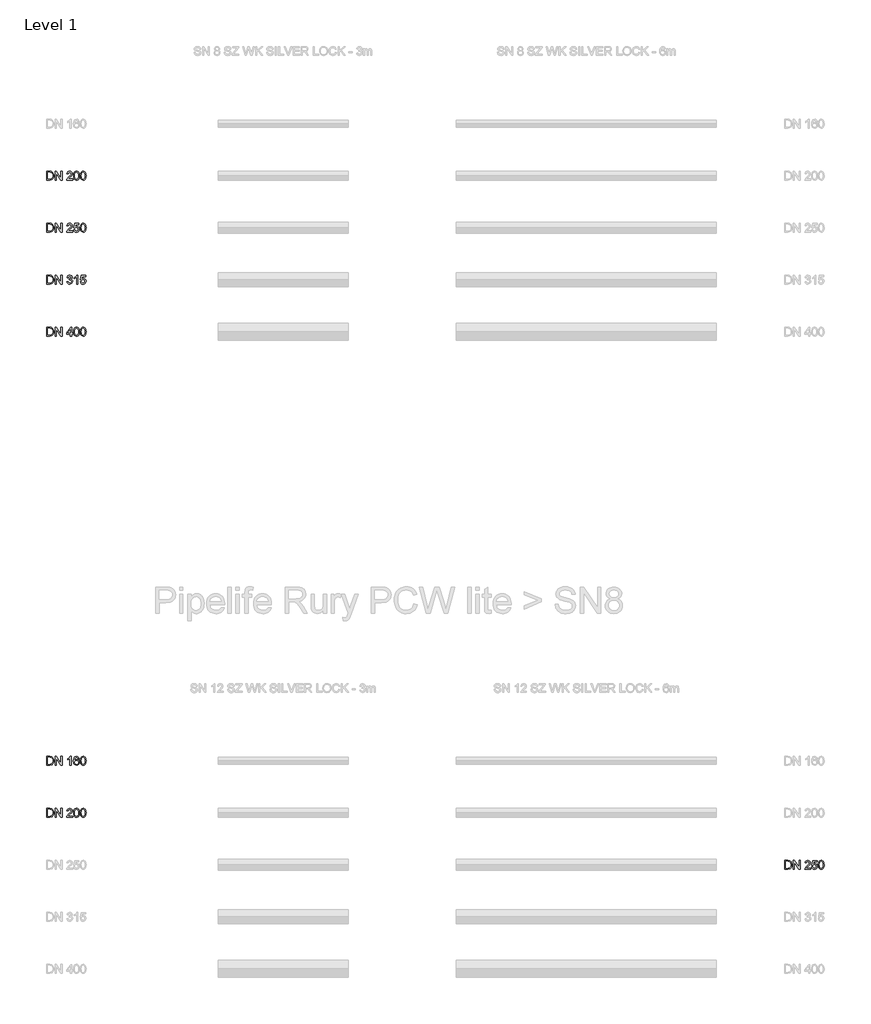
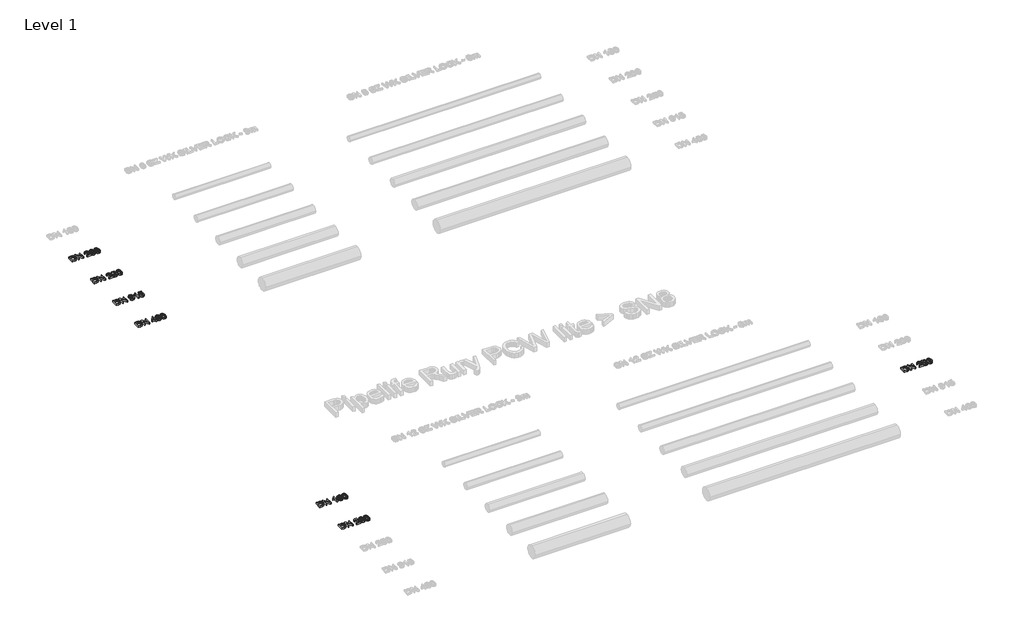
# One storey, part 2 of 8: 7 proxies.
"""IFC4 building model written with IfcOpenShell, lengths in millimetres."""

from ifc_helpers import new_model, si_unit, origin, origin_with_axes, place, context, project, spatial, polyline, outline, extrude, element, save

model = new_model("IFC4")

# Units and contexts
model_context = context("Model", 3, world=origin())
ifc_project = project(units=[si_unit("LENGTHUNIT", "METRE", prefix="MILLI")], contexts=[model_context])

# Site, building, storey
site = spatial("IfcSite", under=ifc_project)
building = spatial("IfcBuilding", under=site)
storey = spatial("IfcBuildingStorey", under=building, Name="Level 1", Elevation=0.0)

# Proxies
placement = place(None, origin())
element("IfcBuildingElementProxy", 1, Name="200mm Arial", ObjectType="200mm Arial", at=placement, inside=storey, context=model_context, shape_type="SweptSolid", body=[
    extrude(outline(polyline([(-19491.3116028, -713.949573), (-19491.3116028, -513.0369527), (-19422.0026349, -513.0369527), (-19386.1464031, -515.9309577), (-19370.1312736, -521.5105013), (-19356.6177416, -530.302881), (-19342.724065, -545.606772), (-19332.8280393, -564.6385338), (-19326.9051392, -587.0302846), (-19324.9308391, -612.4141423), (-19330.2773908, -652.9547382), (-19344.0116519, -682.2136195), (-19362.3567008, -700.436041), (-19386.3671323, -710.5160077), (-19418.6671715, -713.949573), (-19491.3116028, -713.949573)]), holes=[polyline([(-19466.1975253, -688.8354954), (-19421.7573803, -688.8354954), (-19389.4328156, -685.2057264), (-19370.7934612, -674.9540815), (-19362.0685265, -664.0831685), (-19355.5140957, -650.0116822), (-19351.4122114, -632.6783089), (-19350.0449167, -612.0217348), (-19352.7243239, -584.6513144), (-19360.7625455, -564.4423301), (-19372.6390025, -550.5609162), (-19386.8331162, -542.1732067), (-19422.4440933, -538.1510302), (-19466.1975253, -538.1510302), (-19466.1975253, -688.8354954)])]), origin_with_axes(), (0.0, 0.0, 1.0), 50.0),
    extrude(outline(polyline([(-19290.3989825, -713.949573), (-19290.3989825, -513.0369527), (-19263.5190714, -513.0369527), (-19158.5500754, -672.2072292), (-19158.5500754, -513.0369527), (-19133.4359979, -513.0369527), (-19133.4359979, -713.949573), (-19160.315909, -713.949573), (-19265.284905, -554.7302454), (-19265.284905, -713.949573), (-19290.3989825, -713.949573)])), origin_with_axes(), (0.0, 0.0, 1.0), 50.0),
    extrude(outline(polyline([(-18891.7130016, -688.8354954), (-18891.7130016, -713.949573), (-19023.5619087, -713.949573), (-19020.8641074, -696.6345937), (-19005.6092673, -669.9754118), (-18974.1676195, -640.8636832), (-18930.806595, -599.0232377), (-18922.6764029, -584.6022634), (-18919.9663388, -570.5736967), (-18922.5231187, -557.9982638), (-18930.1934583, -547.5442838), (-18941.9840762, -540.4993436), (-18956.9016912, -538.1510302), (-18972.5673328, -540.4441613), (-18984.7380955, -547.3235546), (-18992.5923761, -558.2496499), (-18995.3085714, -572.6828868), (-19020.422649, -569.5436271), (-19014.334202, -545.2511527), (-19001.1701579, -527.5069778), (-18981.6172299, -516.6544589), (-18956.3621309, -513.0369527), (-18930.9230909, -517.0591291), (-18911.4069511, -529.1256586), (-18898.9909337, -547.1518763), (-18894.8522613, -569.0531178), (-18899.3158962, -592.8673456), (-18914.1538033, -617.4909138), (-18950.1326624, -651.9001431), (-18979.0236618, -676.0577275), (-18990.3544272, -688.8354954), (-18891.7130016, -688.8354954)])), origin_with_axes(), (0.0, 0.0, 1.0), 50.0),
    extrude(outline(polyline([(-18866.5989241, -615.1119436), (-18864.7533827, -582.9529258), (-18859.2167587, -557.3054194), (-18850.0442343, -537.7770168), (-18837.2909918, -523.9753106), (-18820.8650607, -515.7715422), (-18800.6744705, -513.0369527), (-18785.1989013, -514.6556334), (-18771.3420128, -519.5116758), (-18759.7537299, -527.4150073), (-18751.0839776, -538.1755557), (-18739.3117537, -567.9004209), (-18734.750017, -615.1119436), (-18736.5771642, -647.0870203), (-18742.058606, -672.6732131), (-18751.1759481, -692.2200098), (-18763.9107965, -706.0768983), (-18780.3735158, -714.335849), (-18800.6744705, -717.0888326), (-18826.7695667, -712.3063667), (-18846.5861435, -697.9589689), (-18855.341735, -682.8298218), (-18861.5957289, -663.9789353), (-18866.5989241, -615.1119436)]), holes=[polyline([(-18841.4848465, -615.0628927), (-18838.5417906, -654.5672876), (-18829.7126227, -677.4311536), (-18816.5669727, -688.3388547), (-18800.6744705, -691.9747551), (-18784.7819683, -688.326592), (-18771.6363184, -677.3821026), (-18762.8071505, -654.5059739), (-18759.8640945, -615.0628927), (-18762.7090486, -576.4475459), (-18771.2439109, -553.4058703), (-18784.3650354, -541.9647402), (-18800.9687761, -538.1510302), (-18816.6896001, -541.5110191), (-18829.3202152, -551.5909857), (-18838.4436887, -576.0674012), (-18841.4848465, -615.0628927)])]), origin_with_axes(), (0.0, 0.0, 1.0), 50.0),
    extrude(outline(polyline([(-18712.7751992, -615.1119436), (-18710.9296578, -582.9529258), (-18705.3930338, -557.3054194), (-18696.2205094, -537.7770168), (-18683.4672669, -523.9753106), (-18667.0413358, -515.7715422), (-18646.8507456, -513.0369527), (-18631.3751764, -514.6556334), (-18617.5182879, -519.5116758), (-18605.930005, -527.4150073), (-18597.2602527, -538.1755557), (-18585.4880288, -567.9004209), (-18580.9262921, -615.1119436), (-18582.7534393, -647.0870203), (-18588.2348811, -672.6732131), (-18597.3522232, -692.2200098), (-18610.0870716, -706.0768983), (-18626.5497909, -714.335849), (-18646.8507456, -717.0888326), (-18672.9458418, -712.3063667), (-18692.7624186, -697.9589689), (-18701.5180101, -682.8298218), (-18707.772004, -663.9789353), (-18712.7751992, -615.1119436)]), holes=[polyline([(-18687.6611216, -615.0628927), (-18684.7180657, -654.5672876), (-18675.8888978, -677.4311536), (-18662.7432478, -688.3388547), (-18646.8507456, -691.9747551), (-18630.9582434, -688.326592), (-18617.8125935, -677.3821026), (-18608.9834256, -654.5059739), (-18606.0403696, -615.0628927), (-18608.8853237, -576.4475459), (-18617.420186, -553.4058703), (-18630.5413105, -541.9647402), (-18647.1450512, -538.1510302), (-18662.8658751, -541.5110191), (-18675.4964903, -551.5909857), (-18684.6199638, -576.0674012), (-18687.6611216, -615.0628927)])]), origin_with_axes(), (0.0, 0.0, 1.0), 50.0),
])
element("IfcBuildingElementProxy", 2, Name="200mm Arial", ObjectType="200mm Arial", at=placement, inside=storey, context=model_context, shape_type="SweptSolid", body=[
    extrude(outline(polyline([(-19491.3116028, -1913.949573), (-19491.3116028, -1713.0369527), (-19422.0026349, -1713.0369527), (-19386.1464031, -1715.9309577), (-19370.1312736, -1721.5105013), (-19356.6177416, -1730.302881), (-19342.724065, -1745.606772), (-19332.8280393, -1764.6385338), (-19326.9051392, -1787.0302846), (-19324.9308391, -1812.4141423), (-19330.2773908, -1852.9547382), (-19344.0116519, -1882.2136195), (-19362.3567008, -1900.436041), (-19386.3671323, -1910.5160077), (-19418.6671715, -1913.949573), (-19491.3116028, -1913.949573)]), holes=[polyline([(-19466.1975253, -1888.8354954), (-19421.7573803, -1888.8354954), (-19389.4328156, -1885.2057264), (-19370.7934612, -1874.9540815), (-19362.0685265, -1864.0831685), (-19355.5140957, -1850.0116822), (-19351.4122114, -1832.6783089), (-19350.0449167, -1812.0217348), (-19352.7243239, -1784.6513144), (-19360.7625455, -1764.4423301), (-19372.6390025, -1750.5609162), (-19386.8331162, -1742.1732067), (-19422.4440933, -1738.1510302), (-19466.1975253, -1738.1510302), (-19466.1975253, -1888.8354954)])]), origin_with_axes(), (0.0, 0.0, 1.0), 50.0),
    extrude(outline(polyline([(-19290.3989825, -1913.949573), (-19290.3989825, -1713.0369527), (-19263.5190714, -1713.0369527), (-19158.5500754, -1872.2072292), (-19158.5500754, -1713.0369527), (-19133.4359979, -1713.0369527), (-19133.4359979, -1913.949573), (-19160.315909, -1913.949573), (-19265.284905, -1754.7302454), (-19265.284905, -1913.949573), (-19290.3989825, -1913.949573)])), origin_with_axes(), (0.0, 0.0, 1.0), 50.0),
    extrude(outline(polyline([(-18891.7130016, -1888.8354954), (-18891.7130016, -1913.949573), (-19023.5619087, -1913.949573), (-19020.8641074, -1896.6345937), (-19005.6092673, -1869.9754118), (-18974.1676195, -1840.8636832), (-18930.806595, -1799.0232377), (-18922.6764029, -1784.6022634), (-18919.9663388, -1770.5736967), (-18922.5231187, -1757.9982638), (-18930.1934583, -1747.5442838), (-18941.9840762, -1740.4993436), (-18956.9016912, -1738.1510302), (-18972.5673328, -1740.4441613), (-18984.7380955, -1747.3235546), (-18992.5923761, -1758.2496499), (-18995.3085714, -1772.6828868), (-19020.422649, -1769.5436271), (-19014.334202, -1745.2511527), (-19001.1701579, -1727.5069778), (-18981.6172299, -1716.6544589), (-18956.3621309, -1713.0369527), (-18930.9230909, -1717.0591291), (-18911.4069511, -1729.1256586), (-18898.9909337, -1747.1518763), (-18894.8522613, -1769.0531178), (-18899.3158962, -1792.8673456), (-18914.1538033, -1817.4909138), (-18950.1326624, -1851.9001431), (-18979.0236618, -1876.0577275), (-18990.3544272, -1888.8354954), (-18891.7130016, -1888.8354954)])), origin_with_axes(), (0.0, 0.0, 1.0), 50.0),
    extrude(outline(polyline([(-18866.5989241, -1860.5821582), (-18841.4848465, -1857.4428985), (-18836.8740589, -1872.5199289), (-18828.8297059, -1883.3172655), (-18817.3885758, -1889.8103827), (-18802.5874569, -1891.9747551), (-18784.5857646, -1888.9642541), (-18771.0967581, -1879.9327511), (-18762.6722604, -1865.9225785), (-18759.8640945, -1847.9760685), (-18762.4944508, -1831.0780222), (-18770.3855196, -1818.1531014), (-18783.5986146, -1809.9493329), (-18802.1950494, -1807.2147434), (-18824.2434437, -1811.5802764), (-18838.3455868, -1822.9110419), (-18863.4596644, -1819.7717822), (-18841.4848465, -1716.1762123), (-18744.1677961, -1716.1762123), (-18744.1677961, -1741.2902899), (-18821.1777604, -1741.2902899), (-18831.9199147, -1796.619742), (-18813.979536, -1785.7304349), (-18795.1807661, -1782.1006659), (-18771.7160261, -1786.601089), (-18752.2366745, -1800.1023582), (-18739.1216814, -1820.6792244), (-18734.750017, -1846.4064386), (-18738.6863543, -1871.5205162), (-18750.4953664, -1893.0048247), (-18760.9309523, -1903.5415782), (-18773.1078464, -1911.0678307), (-18787.0260485, -1915.5835821), (-18802.6855588, -1917.0888326), (-18827.3520466, -1913.2199403), (-18847.0030765, -1901.6132634), (-18860.4736888, -1883.6177025), (-18866.5989241, -1860.5821582)])), origin_with_axes(), (0.0, 0.0, 1.0), 50.0),
    extrude(outline(polyline([(-18712.7751992, -1815.1119436), (-18710.9296578, -1782.9529258), (-18705.3930338, -1757.3054194), (-18696.2205094, -1737.7770168), (-18683.4672669, -1723.9753106), (-18667.0413358, -1715.7715422), (-18646.8507456, -1713.0369527), (-18631.3751764, -1714.6556334), (-18617.5182879, -1719.5116758), (-18605.930005, -1727.4150073), (-18597.2602527, -1738.1755557), (-18585.4880288, -1767.9004209), (-18580.9262921, -1815.1119436), (-18582.7534393, -1847.0870203), (-18588.2348811, -1872.6732131), (-18597.3522232, -1892.2200098), (-18610.0870716, -1906.0768983), (-18626.5497909, -1914.335849), (-18646.8507456, -1917.0888326), (-18672.9458418, -1912.3063667), (-18692.7624186, -1897.9589689), (-18701.5180101, -1882.8298218), (-18707.772004, -1863.9789353), (-18712.7751992, -1815.1119436)]), holes=[polyline([(-18687.6611216, -1815.0628927), (-18684.7180657, -1854.5672876), (-18675.8888978, -1877.4311536), (-18662.7432478, -1888.3388547), (-18646.8507456, -1891.9747551), (-18630.9582434, -1888.326592), (-18617.8125935, -1877.3821026), (-18608.9834256, -1854.5059739), (-18606.0403696, -1815.0628927), (-18608.8853237, -1776.4475459), (-18617.420186, -1753.4058703), (-18630.5413105, -1741.9647402), (-18647.1450512, -1738.1510302), (-18662.8658751, -1741.5110191), (-18675.4964903, -1751.5909857), (-18684.6199638, -1776.0674012), (-18687.6611216, -1815.0628927)])]), origin_with_axes(), (0.0, 0.0, 1.0), 50.0),
])
element("IfcBuildingElementProxy", 3, Name="200mm Arial", ObjectType="200mm Arial", at=placement, inside=storey, context=model_context, shape_type="SweptSolid", body=[
    extrude(outline(polyline([(-19491.3116028, -3113.949573), (-19491.3116028, -2913.0369527), (-19422.0026349, -2913.0369527), (-19386.1464031, -2915.9309577), (-19370.1312736, -2921.5105013), (-19356.6177416, -2930.302881), (-19342.724065, -2945.606772), (-19332.8280393, -2964.6385338), (-19326.9051392, -2987.0302846), (-19324.9308391, -3012.4141423), (-19330.2773908, -3052.9547382), (-19344.0116519, -3082.2136195), (-19362.3567008, -3100.436041), (-19386.3671323, -3110.5160077), (-19418.6671715, -3113.949573), (-19491.3116028, -3113.949573)]), holes=[polyline([(-19466.1975253, -3088.8354954), (-19421.7573803, -3088.8354954), (-19389.4328156, -3085.2057264), (-19370.7934612, -3074.9540815), (-19362.0685265, -3064.0831685), (-19355.5140957, -3050.0116822), (-19351.4122114, -3032.6783089), (-19350.0449167, -3012.0217348), (-19352.7243239, -2984.6513144), (-19360.7625455, -2964.4423301), (-19372.6390025, -2950.5609162), (-19386.8331162, -2942.1732067), (-19422.4440933, -2938.1510302), (-19466.1975253, -2938.1510302), (-19466.1975253, -3088.8354954)])]), origin_with_axes(), (0.0, 0.0, 1.0), 50.0),
    extrude(outline(polyline([(-19290.3989825, -3113.949573), (-19290.3989825, -2913.0369527), (-19263.5190714, -2913.0369527), (-19158.5500754, -3072.2072292), (-19158.5500754, -2913.0369527), (-19133.4359979, -2913.0369527), (-19133.4359979, -3113.949573), (-19160.315909, -3113.949573), (-19265.284905, -2954.7302454), (-19265.284905, -3113.949573), (-19290.3989825, -3113.949573)])), origin_with_axes(), (0.0, 0.0, 1.0), 50.0),
    extrude(outline(polyline([(-19020.422649, -3060.5821582), (-18995.3085714, -3057.4428985), (-18989.6861083, -3073.2250361), (-18981.451683, -3083.8813512), (-18970.2006253, -3089.9514041), (-18955.528265, -3091.9747551), (-18938.3113877, -3089.1911147), (-18925.0185849, -3080.8401934), (-18916.5205108, -3068.3812565), (-18913.6878195, -3053.2735692), (-18916.4959853, -3038.9323028), (-18924.920483, -3027.3011004), (-18937.6737255, -3019.5939726), (-18953.4681259, -3017.02493), (-18971.0774107, -3019.7717822), (-18968.2815075, -2994.6577047), (-18964.2593311, -2994.9520102), (-18949.2129575, -2993.1493885), (-18935.7607392, -2987.7415231), (-18926.2693837, -2978.5935242), (-18923.1055985, -2965.5705016), (-18925.3987296, -2954.7241141), (-18932.2781229, -2945.925603), (-18942.7750225, -2940.0946734), (-18955.9206725, -2938.1510302), (-18969.0908479, -2940.1130675), (-18979.8575277, -2945.9991794), (-18987.7179396, -2955.809366), (-18992.1693118, -2969.5436271), (-19017.2833893, -2966.4043674), (-19009.8889612, -2943.8532011), (-18996.7310485, -2927.0164685), (-18978.7293562, -2916.5318316), (-18956.8035893, -2913.0369527), (-18941.0153203, -2914.7598667), (-18926.5146384, -2919.9286087), (-18914.2886934, -2928.0833263), (-18905.3246354, -2938.7641669), (-18899.8247996, -2951.0698196), (-18897.991521, -2964.0989736), (-18899.7328291, -2976.2390794), (-18904.9567534, -2987.2510138), (-18913.5897176, -2996.6320047), (-18925.5581452, -3003.87928), (-18909.8373212, -3010.2313758), (-18898.1877247, -3021.0471064), (-18890.9772376, -3035.7378608), (-18888.5737419, -3053.7150276), (-18893.3807333, -3078.191443), (-18907.8017075, -3098.645682), (-18929.5680589, -3112.478045), (-18956.4111818, -3117.0888326), (-18980.6913935, -3113.1524953), (-19000.4589194, -3101.3434833), (-19014.2054433, -3083.2804773), (-19020.422649, -3060.5821582)])), origin_with_axes(), (0.0, 0.0, 1.0), 50.0),
    extrude(outline(polyline([(-18772.4211333, -3113.949573), (-18797.5352108, -3113.949573), (-18797.5352108, -2957.3789958), (-18821.3249132, -2974.3260931), (-18847.7633659, -2987.0057592), (-18847.7633659, -2963.2651077), (-18810.9506409, -2939.769711), (-18797.4800285, -2926.1948653), (-18788.6079411, -2913.0369527), (-18772.4211333, -2913.0369527), (-18772.4211333, -3113.949573)])), origin_with_axes(), (0.0, 0.0, 1.0), 50.0),
    extrude(outline(polyline([(-18712.7751992, -3060.5821582), (-18687.6611216, -3057.4428985), (-18683.0503339, -3072.5199289), (-18675.005981, -3083.3172655), (-18663.5648509, -3089.8103827), (-18648.763732, -3091.9747551), (-18630.7620397, -3088.9642541), (-18617.2730332, -3079.9327511), (-18608.8485355, -3065.9225785), (-18606.0403696, -3047.9760685), (-18608.6707259, -3031.0780222), (-18616.5617947, -3018.1531014), (-18629.7748897, -3009.9493329), (-18648.3713245, -3007.2147434), (-18670.4197188, -3011.5802764), (-18684.5218619, -3022.9110419), (-18709.6359395, -3019.7717822), (-18687.6611216, -2916.1762123), (-18590.3440712, -2916.1762123), (-18590.3440712, -2941.2902899), (-18667.3540355, -2941.2902899), (-18678.0961897, -2996.619742), (-18660.1558111, -2985.7304349), (-18641.3570412, -2982.1006659), (-18617.8923012, -2986.601089), (-18598.4129496, -3000.1023582), (-18585.2979565, -3020.6792244), (-18580.9262921, -3046.4064386), (-18584.8626294, -3071.5205162), (-18596.6716415, -3093.0048247), (-18607.1072274, -3103.5415782), (-18619.2841214, -3111.0678307), (-18633.2023236, -3115.5835821), (-18648.8618339, -3117.0888326), (-18673.5283216, -3113.2199403), (-18693.1793515, -3101.6132634), (-18706.6499639, -3083.6177025), (-18712.7751992, -3060.5821582)])), origin_with_axes(), (0.0, 0.0, 1.0), 50.0),
])
element("IfcBuildingElementProxy", 4, Name="200mm Arial", ObjectType="200mm Arial", at=placement, inside=storey, context=model_context, shape_type="SweptSolid", body=[
    extrude(outline(polyline([(-19491.3116028, -4313.949573), (-19491.3116028, -4113.0369527), (-19422.0026349, -4113.0369527), (-19386.1464031, -4115.9309577), (-19370.1312736, -4121.5105013), (-19356.6177416, -4130.302881), (-19342.724065, -4145.606772), (-19332.8280393, -4164.6385338), (-19326.9051392, -4187.0302846), (-19324.9308391, -4212.4141423), (-19330.2773908, -4252.9547382), (-19344.0116519, -4282.2136195), (-19362.3567008, -4300.436041), (-19386.3671323, -4310.5160077), (-19418.6671715, -4313.949573), (-19491.3116028, -4313.949573)]), holes=[polyline([(-19466.1975253, -4288.8354954), (-19421.7573803, -4288.8354954), (-19389.4328156, -4285.2057264), (-19370.7934612, -4274.9540815), (-19362.0685265, -4264.0831685), (-19355.5140957, -4250.0116822), (-19351.4122114, -4232.6783089), (-19350.0449167, -4212.0217348), (-19352.7243239, -4184.6513144), (-19360.7625455, -4164.4423301), (-19372.6390025, -4150.5609162), (-19386.8331162, -4142.1732067), (-19422.4440933, -4138.1510302), (-19466.1975253, -4138.1510302), (-19466.1975253, -4288.8354954)])]), origin_with_axes(), (0.0, 0.0, 1.0), 50.0),
    extrude(outline(polyline([(-19290.3989825, -4313.949573), (-19290.3989825, -4113.0369527), (-19263.5190714, -4113.0369527), (-19158.5500754, -4272.2072292), (-19158.5500754, -4113.0369527), (-19133.4359979, -4113.0369527), (-19133.4359979, -4313.949573), (-19160.315909, -4313.949573), (-19265.284905, -4154.7302454), (-19265.284905, -4313.949573), (-19290.3989825, -4313.949573)])), origin_with_axes(), (0.0, 0.0, 1.0), 50.0),
    extrude(outline(polyline([(-18938.801897, -4313.949573), (-18938.801897, -4266.8606776), (-19029.8404281, -4266.8606776), (-19029.8404281, -4241.7466), (-18932.5233776, -4116.1762123), (-18913.6878195, -4116.1762123), (-18913.6878195, -4241.7466), (-18888.5737419, -4241.7466), (-18888.5737419, -4266.8606776), (-18913.6878195, -4266.8606776), (-18913.6878195, -4313.949573), (-18938.801897, -4313.949573)]), holes=[polyline([(-18938.801897, -4241.7466), (-18938.801897, -4164.1480245), (-18998.9383405, -4241.7466), (-18938.801897, -4241.7466)])]), origin_with_axes(), (0.0, 0.0, 1.0), 50.0),
    extrude(outline(polyline([(-18866.5989241, -4215.1119436), (-18864.7533827, -4182.9529258), (-18859.2167587, -4157.3054194), (-18850.0442343, -4137.7770168), (-18837.2909918, -4123.9753106), (-18820.8650607, -4115.7715422), (-18800.6744705, -4113.0369527), (-18785.1989013, -4114.6556334), (-18771.3420128, -4119.5116758), (-18759.7537299, -4127.4150073), (-18751.0839776, -4138.1755557), (-18739.3117537, -4167.9004209), (-18734.750017, -4215.1119436), (-18736.5771642, -4247.0870203), (-18742.058606, -4272.6732131), (-18751.1759481, -4292.2200098), (-18763.9107965, -4306.0768983), (-18780.3735158, -4314.335849), (-18800.6744705, -4317.0888326), (-18826.7695667, -4312.3063667), (-18846.5861435, -4297.9589689), (-18855.341735, -4282.8298218), (-18861.5957289, -4263.9789353), (-18866.5989241, -4215.1119436)]), holes=[polyline([(-18841.4848465, -4215.0628927), (-18838.5417906, -4254.5672876), (-18829.7126227, -4277.4311536), (-18816.5669727, -4288.3388547), (-18800.6744705, -4291.9747551), (-18784.7819683, -4288.326592), (-18771.6363184, -4277.3821026), (-18762.8071505, -4254.5059739), (-18759.8640945, -4215.0628927), (-18762.7090486, -4176.4475459), (-18771.2439109, -4153.4058703), (-18784.3650354, -4141.9647402), (-18800.9687761, -4138.1510302), (-18816.6896001, -4141.5110191), (-18829.3202152, -4151.5909857), (-18838.4436887, -4176.0674012), (-18841.4848465, -4215.0628927)])]), origin_with_axes(), (0.0, 0.0, 1.0), 50.0),
    extrude(outline(polyline([(-18712.7751992, -4215.1119436), (-18710.9296578, -4182.9529258), (-18705.3930338, -4157.3054194), (-18696.2205094, -4137.7770168), (-18683.4672669, -4123.9753106), (-18667.0413358, -4115.7715422), (-18646.8507456, -4113.0369527), (-18631.3751764, -4114.6556334), (-18617.5182879, -4119.5116758), (-18605.930005, -4127.4150073), (-18597.2602527, -4138.1755557), (-18585.4880288, -4167.9004209), (-18580.9262921, -4215.1119436), (-18582.7534393, -4247.0870203), (-18588.2348811, -4272.6732131), (-18597.3522232, -4292.2200098), (-18610.0870716, -4306.0768983), (-18626.5497909, -4314.335849), (-18646.8507456, -4317.0888326), (-18672.9458418, -4312.3063667), (-18692.7624186, -4297.9589689), (-18701.5180101, -4282.8298218), (-18707.772004, -4263.9789353), (-18712.7751992, -4215.1119436)]), holes=[polyline([(-18687.6611216, -4215.0628927), (-18684.7180657, -4254.5672876), (-18675.8888978, -4277.4311536), (-18662.7432478, -4288.3388547), (-18646.8507456, -4291.9747551), (-18630.9582434, -4288.326592), (-18617.8125935, -4277.3821026), (-18608.9834256, -4254.5059739), (-18606.0403696, -4215.0628927), (-18608.8853237, -4176.4475459), (-18617.420186, -4153.4058703), (-18630.5413105, -4141.9647402), (-18647.1450512, -4138.1510302), (-18662.8658751, -4141.5110191), (-18675.4964903, -4151.5909857), (-18684.6199638, -4176.0674012), (-18687.6611216, -4215.0628927)])]), origin_with_axes(), (0.0, 0.0, 1.0), 50.0),
])
element("IfcBuildingElementProxy", 5, Name="200mm Arial", ObjectType="200mm Arial", at=placement, inside=storey, context=model_context, shape_type="SweptSolid", body=[
    extrude(outline(polyline([(-19491.3116028, -14213.949573), (-19491.3116028, -14013.0369527), (-19422.0026349, -14013.0369527), (-19386.1464031, -14015.9309577), (-19370.1312736, -14021.5105013), (-19356.6177416, -14030.302881), (-19342.724065, -14045.606772), (-19332.8280393, -14064.6385338), (-19326.9051392, -14087.0302846), (-19324.9308391, -14112.4141423), (-19330.2773908, -14152.9547382), (-19344.0116519, -14182.2136195), (-19362.3567008, -14200.436041), (-19386.3671323, -14210.5160077), (-19418.6671715, -14213.949573), (-19491.3116028, -14213.949573)]), holes=[polyline([(-19466.1975253, -14188.8354954), (-19421.7573803, -14188.8354954), (-19389.4328156, -14185.2057264), (-19370.7934612, -14174.9540815), (-19362.0685265, -14164.0831685), (-19355.5140957, -14150.0116822), (-19351.4122114, -14132.6783089), (-19350.0449167, -14112.0217348), (-19352.7243239, -14084.6513144), (-19360.7625455, -14064.4423301), (-19372.6390025, -14050.5609162), (-19386.8331162, -14042.1732067), (-19422.4440933, -14038.1510302), (-19466.1975253, -14038.1510302), (-19466.1975253, -14188.8354954)])]), origin_with_axes(), (0.0, 0.0, 1.0), 50.0),
    extrude(outline(polyline([(-19290.3989825, -14213.949573), (-19290.3989825, -14013.0369527), (-19263.5190714, -14013.0369527), (-19158.5500754, -14172.2072292), (-19158.5500754, -14013.0369527), (-19133.4359979, -14013.0369527), (-19133.4359979, -14213.949573), (-19160.315909, -14213.949573), (-19265.284905, -14054.7302454), (-19265.284905, -14213.949573), (-19290.3989825, -14213.949573)])), origin_with_axes(), (0.0, 0.0, 1.0), 50.0),
    extrude(outline(polyline([(-18926.2448582, -14213.949573), (-18951.3589358, -14213.949573), (-18951.3589358, -14057.3789958), (-18975.1486381, -14074.3260931), (-19001.5870908, -14087.0057592), (-19001.5870908, -14063.2651077), (-18964.7743658, -14039.769711), (-18951.3037535, -14026.1948653), (-18942.431666, -14013.0369527), (-18926.2448582, -14013.0369527), (-18926.2448582, -14213.949573)])), origin_with_axes(), (0.0, 0.0, 1.0), 50.0),
    extrude(outline(polyline([(-18737.8892767, -14066.4043674), (-18763.0033542, -14069.5436271), (-18772.5192352, -14048.5988789), (-18783.9113143, -14040.7629924), (-18797.6823636, -14038.1510302), (-18820.3438945, -14044.2333458), (-18829.7800677, -14053.8411973), (-18837.4871955, -14067.066555), (-18842.6927257, -14085.7733545), (-18844.6241062, -14111.8255311), (-18834.5502709, -14100.0717013), (-18822.4776101, -14091.7882251), (-18809.0805741, -14086.8770005), (-18795.0336133, -14085.2399256), (-18771.8325221, -14089.7158232), (-18752.3593018, -14103.143516), (-18739.1523382, -14123.6590686), (-18734.750017, -14149.3985455), (-18736.8224189, -14167.3818437), (-18743.0396246, -14184.0530295), (-18752.8865994, -14198.1919608), (-18765.8483083, -14208.5784958), (-18781.3361403, -14214.9612484), (-18798.7614842, -14217.0888326), (-18827.2539447, -14211.4479754), (-18849.9461324, -14194.5254036), (-18858.6051549, -14181.4165418), (-18864.7901709, -14164.6533856), (-18869.7381838, -14120.1641897), (-18864.2444793, -14070.144501), (-18857.3773487, -14051.0667539), (-18847.7633659, -14035.9437382), (-18837.3431084, -14025.9220195), (-18825.2612505, -14018.763649), (-18796.1127338, -14013.0369527), (-18774.0766023, -14016.5808825), (-18756.4305292, -14027.2126722), (-18744.0696942, -14044.0984558), (-18737.8892767, -14066.4043674)]), holes=[polyline([(-18844.6241062, -14149.0061381), (-18838.8115707, -14170.7602267), (-18823.3605269, -14186.554627), (-18800.7235215, -14191.9747551), (-18784.1504376, -14189.1665892), (-18771.1212836, -14180.7420915), (-18762.6783918, -14167.4983397), (-18759.8640945, -14150.2324114), (-18762.6416036, -14133.6593275), (-18770.9741308, -14121.022581), (-18784.224014, -14113.0211476), (-18801.7535911, -14110.3540031), (-18818.3021495, -14113.0211476), (-18832.1406439, -14121.022581), (-18841.5032406, -14133.3527592), (-18844.6241062, -14149.0061381)])]), origin_with_axes(), (0.0, 0.0, 1.0), 50.0),
    extrude(outline(polyline([(-18712.7751992, -14115.1119436), (-18710.9296578, -14082.9529258), (-18705.3930338, -14057.3054194), (-18696.2205094, -14037.7770168), (-18683.4672669, -14023.9753106), (-18667.0413358, -14015.7715422), (-18646.8507456, -14013.0369527), (-18631.3751764, -14014.6556334), (-18617.5182879, -14019.5116758), (-18605.930005, -14027.4150073), (-18597.2602527, -14038.1755557), (-18585.4880288, -14067.9004209), (-18580.9262921, -14115.1119436), (-18582.7534393, -14147.0870203), (-18588.2348811, -14172.6732131), (-18597.3522232, -14192.2200098), (-18610.0870716, -14206.0768983), (-18626.5497909, -14214.335849), (-18646.8507456, -14217.0888326), (-18672.9458418, -14212.3063667), (-18692.7624186, -14197.9589689), (-18701.5180101, -14182.8298218), (-18707.772004, -14163.9789353), (-18712.7751992, -14115.1119436)]), holes=[polyline([(-18687.6611216, -14115.0628927), (-18684.7180657, -14154.5672876), (-18675.8888978, -14177.4311536), (-18662.7432478, -14188.3388547), (-18646.8507456, -14191.9747551), (-18630.9582434, -14188.326592), (-18617.8125935, -14177.3821026), (-18608.9834256, -14154.5059739), (-18606.0403696, -14115.0628927), (-18608.8853237, -14076.4475459), (-18617.420186, -14053.4058703), (-18630.5413105, -14041.9647402), (-18647.1450512, -14038.1510302), (-18662.8658751, -14041.5110191), (-18675.4964903, -14051.5909857), (-18684.6199638, -14076.0674012), (-18687.6611216, -14115.0628927)])]), origin_with_axes(), (0.0, 0.0, 1.0), 50.0),
])
element("IfcBuildingElementProxy", 6, Name="200mm Arial", ObjectType="200mm Arial", at=placement, inside=storey, context=model_context, shape_type="SweptSolid", body=[
    extrude(outline(polyline([(-19491.3116028, -15413.949573), (-19491.3116028, -15213.0369527), (-19422.0026349, -15213.0369527), (-19386.1464031, -15215.9309577), (-19370.1312736, -15221.5105013), (-19356.6177416, -15230.302881), (-19342.724065, -15245.606772), (-19332.8280393, -15264.6385338), (-19326.9051392, -15287.0302846), (-19324.9308391, -15312.4141423), (-19330.2773908, -15352.9547382), (-19344.0116519, -15382.2136195), (-19362.3567008, -15400.436041), (-19386.3671323, -15410.5160077), (-19418.6671715, -15413.949573), (-19491.3116028, -15413.949573)]), holes=[polyline([(-19466.1975253, -15388.8354954), (-19421.7573803, -15388.8354954), (-19389.4328156, -15385.2057264), (-19370.7934612, -15374.9540815), (-19362.0685265, -15364.0831685), (-19355.5140957, -15350.0116822), (-19351.4122114, -15332.6783089), (-19350.0449167, -15312.0217348), (-19352.7243239, -15284.6513144), (-19360.7625455, -15264.4423301), (-19372.6390025, -15250.5609162), (-19386.8331162, -15242.1732067), (-19422.4440933, -15238.1510302), (-19466.1975253, -15238.1510302), (-19466.1975253, -15388.8354954)])]), origin_with_axes(), (0.0, 0.0, 1.0), 50.0),
    extrude(outline(polyline([(-19290.3989825, -15413.949573), (-19290.3989825, -15213.0369527), (-19263.5190714, -15213.0369527), (-19158.5500754, -15372.2072292), (-19158.5500754, -15213.0369527), (-19133.4359979, -15213.0369527), (-19133.4359979, -15413.949573), (-19160.315909, -15413.949573), (-19265.284905, -15254.7302454), (-19265.284905, -15413.949573), (-19290.3989825, -15413.949573)])), origin_with_axes(), (0.0, 0.0, 1.0), 50.0),
    extrude(outline(polyline([(-18891.7130016, -15388.8354954), (-18891.7130016, -15413.949573), (-19023.5619087, -15413.949573), (-19020.8641074, -15396.6345937), (-19005.6092673, -15369.9754118), (-18974.1676195, -15340.8636832), (-18930.806595, -15299.0232377), (-18922.6764029, -15284.6022634), (-18919.9663388, -15270.5736967), (-18922.5231187, -15257.9982638), (-18930.1934583, -15247.5442838), (-18941.9840762, -15240.4993436), (-18956.9016912, -15238.1510302), (-18972.5673328, -15240.4441613), (-18984.7380955, -15247.3235546), (-18992.5923761, -15258.2496499), (-18995.3085714, -15272.6828868), (-19020.422649, -15269.5436271), (-19014.334202, -15245.2511527), (-19001.1701579, -15227.5069778), (-18981.6172299, -15216.6544589), (-18956.3621309, -15213.0369527), (-18930.9230909, -15217.0591291), (-18911.4069511, -15229.1256586), (-18898.9909337, -15247.1518763), (-18894.8522613, -15269.0531178), (-18899.3158962, -15292.8673456), (-18914.1538033, -15317.4909138), (-18950.1326624, -15351.9001431), (-18979.0236618, -15376.0577275), (-18990.3544272, -15388.8354954), (-18891.7130016, -15388.8354954)])), origin_with_axes(), (0.0, 0.0, 1.0), 50.0),
    extrude(outline(polyline([(-18866.5989241, -15315.1119436), (-18864.7533827, -15282.9529258), (-18859.2167587, -15257.3054194), (-18850.0442343, -15237.7770168), (-18837.2909918, -15223.9753106), (-18820.8650607, -15215.7715422), (-18800.6744705, -15213.0369527), (-18785.1989013, -15214.6556334), (-18771.3420128, -15219.5116758), (-18759.7537299, -15227.4150073), (-18751.0839776, -15238.1755557), (-18739.3117537, -15267.9004209), (-18734.750017, -15315.1119436), (-18736.5771642, -15347.0870203), (-18742.058606, -15372.6732131), (-18751.1759481, -15392.2200098), (-18763.9107965, -15406.0768983), (-18780.3735158, -15414.335849), (-18800.6744705, -15417.0888326), (-18826.7695667, -15412.3063667), (-18846.5861435, -15397.9589689), (-18855.341735, -15382.8298218), (-18861.5957289, -15363.9789353), (-18866.5989241, -15315.1119436)]), holes=[polyline([(-18841.4848465, -15315.0628927), (-18838.5417906, -15354.5672876), (-18829.7126227, -15377.4311536), (-18816.5669727, -15388.3388547), (-18800.6744705, -15391.9747551), (-18784.7819683, -15388.326592), (-18771.6363184, -15377.3821026), (-18762.8071505, -15354.5059739), (-18759.8640945, -15315.0628927), (-18762.7090486, -15276.4475459), (-18771.2439109, -15253.4058703), (-18784.3650354, -15241.9647402), (-18800.9687761, -15238.1510302), (-18816.6896001, -15241.5110191), (-18829.3202152, -15251.5909857), (-18838.4436887, -15276.0674012), (-18841.4848465, -15315.0628927)])]), origin_with_axes(), (0.0, 0.0, 1.0), 50.0),
    extrude(outline(polyline([(-18712.7751992, -15315.1119436), (-18710.9296578, -15282.9529258), (-18705.3930338, -15257.3054194), (-18696.2205094, -15237.7770168), (-18683.4672669, -15223.9753106), (-18667.0413358, -15215.7715422), (-18646.8507456, -15213.0369527), (-18631.3751764, -15214.6556334), (-18617.5182879, -15219.5116758), (-18605.930005, -15227.4150073), (-18597.2602527, -15238.1755557), (-18585.4880288, -15267.9004209), (-18580.9262921, -15315.1119436), (-18582.7534393, -15347.0870203), (-18588.2348811, -15372.6732131), (-18597.3522232, -15392.2200098), (-18610.0870716, -15406.0768983), (-18626.5497909, -15414.335849), (-18646.8507456, -15417.0888326), (-18672.9458418, -15412.3063667), (-18692.7624186, -15397.9589689), (-18701.5180101, -15382.8298218), (-18707.772004, -15363.9789353), (-18712.7751992, -15315.1119436)]), holes=[polyline([(-18687.6611216, -15315.0628927), (-18684.7180657, -15354.5672876), (-18675.8888978, -15377.4311536), (-18662.7432478, -15388.3388547), (-18646.8507456, -15391.9747551), (-18630.9582434, -15388.326592), (-18617.8125935, -15377.3821026), (-18608.9834256, -15354.5059739), (-18606.0403696, -15315.0628927), (-18608.8853237, -15276.4475459), (-18617.420186, -15253.4058703), (-18630.5413105, -15241.9647402), (-18647.1450512, -15238.1510302), (-18662.8658751, -15241.5110191), (-18675.4964903, -15251.5909857), (-18684.6199638, -15276.0674012), (-18687.6611216, -15315.0628927)])]), origin_with_axes(), (0.0, 0.0, 1.0), 50.0),
])
element("IfcBuildingElementProxy", 7, Name="200mm Arial", ObjectType="200mm Arial", at=placement, inside=storey, context=model_context, shape_type="SweptSolid", body=[
    extrude(outline(polyline([(-2460.6923074, -16613.949573), (-2460.6923074, -16413.0369527), (-2391.3833395, -16413.0369527), (-2355.5271077, -16415.9309577), (-2339.5119782, -16421.5105013), (-2325.9984462, -16430.302881), (-2312.1047695, -16445.606772), (-2302.2087438, -16464.6385338), (-2296.2858437, -16487.0302846), (-2294.3115437, -16512.4141423), (-2299.6580953, -16552.9547382), (-2313.3923565, -16582.2136195), (-2331.7374053, -16600.436041), (-2355.7478369, -16610.5160077), (-2388.0478761, -16613.949573), (-2460.6923074, -16613.949573)]), holes=[polyline([(-2435.5782298, -16588.8354954), (-2391.1380848, -16588.8354954), (-2358.8135202, -16585.2057264), (-2340.1741658, -16574.9540815), (-2331.4492311, -16564.0831685), (-2324.8948002, -16550.0116822), (-2320.792916, -16532.6783089), (-2319.4256212, -16512.0217348), (-2322.1050284, -16484.6513144), (-2330.14325, -16464.4423301), (-2342.0197071, -16450.5609162), (-2356.2138207, -16442.1732067), (-2391.8247979, -16438.1510302), (-2435.5782298, -16438.1510302), (-2435.5782298, -16588.8354954)])]), origin_with_axes(), (0.0, 0.0, 1.0), 50.0),
    extrude(outline(polyline([(-2259.7796871, -16613.949573), (-2259.7796871, -16413.0369527), (-2232.899776, -16413.0369527), (-2127.93078, -16572.2072292), (-2127.93078, -16413.0369527), (-2102.8167025, -16413.0369527), (-2102.8167025, -16613.949573), (-2129.6966136, -16613.949573), (-2234.6656095, -16454.7302454), (-2234.6656095, -16613.949573), (-2259.7796871, -16613.949573)])), origin_with_axes(), (0.0, 0.0, 1.0), 50.0),
    extrude(outline(polyline([(-1861.0937062, -16588.8354954), (-1861.0937062, -16613.949573), (-1992.9426132, -16613.949573), (-1990.2448119, -16596.6345937), (-1974.9899719, -16569.9754118), (-1943.548324, -16540.8636832), (-1900.1872995, -16499.0232377), (-1892.0571074, -16484.6022634), (-1889.3470434, -16470.5736967), (-1891.9038233, -16457.9982638), (-1899.5741629, -16447.5442838), (-1911.3647808, -16440.4993436), (-1926.2823957, -16438.1510302), (-1941.9480373, -16440.4441613), (-1954.1188, -16447.3235546), (-1961.9730806, -16458.2496499), (-1964.689276, -16472.6828868), (-1989.8033535, -16469.5436271), (-1983.7149065, -16445.2511527), (-1970.5508625, -16427.5069778), (-1950.9979344, -16416.6544589), (-1925.7428355, -16413.0369527), (-1900.3037955, -16417.0591291), (-1880.7876556, -16429.1256586), (-1868.3716383, -16447.1518763), (-1864.2329659, -16469.0531178), (-1868.6966007, -16492.8673456), (-1883.5345079, -16517.4909138), (-1919.513367, -16551.9001431), (-1948.4043664, -16576.0577275), (-1959.7351318, -16588.8354954), (-1861.0937062, -16588.8354954)])), origin_with_axes(), (0.0, 0.0, 1.0), 50.0),
    extrude(outline(polyline([(-1835.9796286, -16560.5821582), (-1810.8655511, -16557.4428985), (-1806.2547634, -16572.5199289), (-1798.2104105, -16583.3172655), (-1786.7692804, -16589.8103827), (-1771.9681615, -16591.9747551), (-1753.9664692, -16588.9642541), (-1740.4774627, -16579.9327511), (-1732.052965, -16565.9225785), (-1729.2447991, -16547.9760685), (-1731.8751554, -16531.0780222), (-1739.7662242, -16518.1531014), (-1752.9793191, -16509.9493329), (-1771.575754, -16507.2147434), (-1793.6241482, -16511.5802764), (-1807.7262914, -16522.9110419), (-1832.8403689, -16519.7717822), (-1810.8655511, -16416.1762123), (-1713.5485006, -16416.1762123), (-1713.5485006, -16441.2902899), (-1790.558465, -16441.2902899), (-1801.3006192, -16496.619742), (-1783.3602406, -16485.7304349), (-1764.5614706, -16482.1006659), (-1741.0967307, -16486.601089), (-1721.6173791, -16500.1023582), (-1708.5023859, -16520.6792244), (-1704.1307216, -16546.4064386), (-1708.0670589, -16571.5205162), (-1719.876071, -16593.0048247), (-1730.3116569, -16603.5415782), (-1742.4885509, -16611.0678307), (-1756.4067531, -16615.5835821), (-1772.0662633, -16617.0888326), (-1796.7327511, -16613.2199403), (-1816.383781, -16601.6132634), (-1829.8543934, -16583.6177025), (-1835.9796286, -16560.5821582)])), origin_with_axes(), (0.0, 0.0, 1.0), 50.0),
    extrude(outline(polyline([(-1682.1559037, -16515.1119436), (-1680.3103624, -16482.9529258), (-1674.7737383, -16457.3054194), (-1665.6012139, -16437.7770168), (-1652.8479714, -16423.9753106), (-1636.4220403, -16415.7715422), (-1616.2314502, -16413.0369527), (-1600.7558809, -16414.6556334), (-1586.8989924, -16419.5116758), (-1575.3107096, -16427.4150073), (-1566.6409572, -16438.1755557), (-1554.8687334, -16467.9004209), (-1550.3069966, -16515.1119436), (-1552.1341439, -16547.0870203), (-1557.6155856, -16572.6732131), (-1566.7329277, -16592.2200098), (-1579.4677761, -16606.0768983), (-1595.9304954, -16614.335849), (-1616.2314502, -16617.0888326), (-1642.3265464, -16612.3063667), (-1662.1431232, -16597.9589689), (-1670.8987147, -16582.8298218), (-1677.1527086, -16563.9789353), (-1682.1559037, -16515.1119436)]), holes=[polyline([(-1657.0418262, -16515.0628927), (-1654.0987702, -16554.5672876), (-1645.2696023, -16577.4311536), (-1632.1239524, -16588.3388547), (-1616.2314502, -16591.9747551), (-1600.338948, -16588.326592), (-1587.193298, -16577.3821026), (-1578.3641301, -16554.5059739), (-1575.4210742, -16515.0628927), (-1578.2660283, -16476.4475459), (-1586.8008906, -16453.4058703), (-1599.9220151, -16441.9647402), (-1616.5257558, -16438.1510302), (-1632.2465797, -16441.5110191), (-1644.8771949, -16451.5909857), (-1654.0006683, -16476.0674012), (-1657.0418262, -16515.0628927)])]), origin_with_axes(), (0.0, 0.0, 1.0), 50.0),
])

save(model, "model.ifc")
